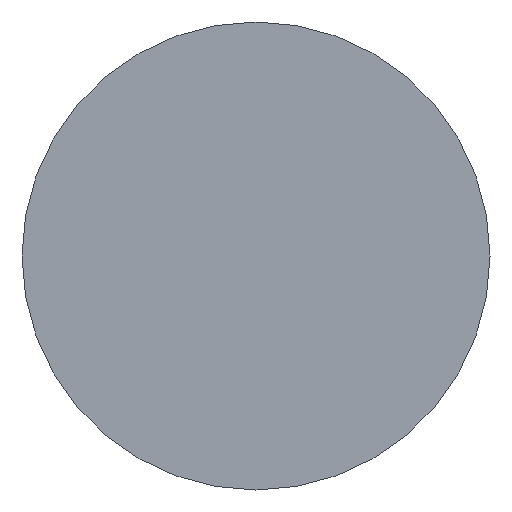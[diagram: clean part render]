
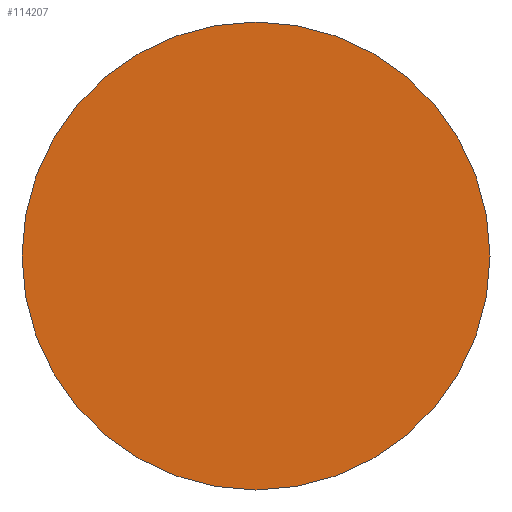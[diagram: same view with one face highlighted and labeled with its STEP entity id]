
A CAD part, left-side view. The second image highlights one B-rep face of the part: STEP entity #114207.
In plain terms, the highlighted planar face has unit normal (-1, 0, 0).
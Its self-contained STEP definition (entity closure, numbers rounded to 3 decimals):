
#951 = DIRECTION ( 'NONE',  ( 0., 0., -1. ) ) ;
#5486 = AXIS2_PLACEMENT_3D ( 'NONE', #161451, #12456, #951 ) ;
#12456 = DIRECTION ( 'NONE',  ( 1., 0., 0. ) ) ;
#26354 = EDGE_LOOP ( 'NONE', ( #76578, #157003 ) ) ;
#34103 = CARTESIAN_POINT ( 'NONE',  ( 33.5, -1.148, 35.328 ) ) ;
#36735 = VERTEX_POINT ( 'NONE', #46218 ) ;
#40858 = EDGE_CURVE ( 'NONE', #36735, #124009, #120854, .T. ) ;
#41503 = AXIS2_PLACEMENT_3D ( 'NONE', #152008, #57870, #98693 ) ;
#46218 = CARTESIAN_POINT ( 'NONE',  ( 33.5, -1.148, -34.472 ) ) ;
#57870 = DIRECTION ( 'NONE',  ( -1., 0., 0. ) ) ;
#76578 = ORIENTED_EDGE ( 'NONE', *, *, #127507, .T. ) ;
#77144 = CARTESIAN_POINT ( 'NONE',  ( 33.5, -1.148, 0.428 ) ) ;
#93981 = CIRCLE ( 'NONE', #108175, 34.9 ) ;
#98693 = DIRECTION ( 'NONE',  ( 0., 0., 1. ) ) ;
#108175 = AXIS2_PLACEMENT_3D ( 'NONE', #77144, #141172, #116292 ) ;
#114207 = ADVANCED_FACE ( 'NONE', ( #134828 ), #160579, .F. ) ;
#116292 = DIRECTION ( 'NONE',  ( 0., 0., 1. ) ) ;
#120854 = CIRCLE ( 'NONE', #41503, 34.9 ) ;
#124009 = VERTEX_POINT ( 'NONE', #34103 ) ;
#127507 = EDGE_CURVE ( 'NONE', #124009, #36735, #93981, .T. ) ;
#134828 = FACE_OUTER_BOUND ( 'NONE', #26354, .T. ) ;
#141172 = DIRECTION ( 'NONE',  ( -1., 0., 0. ) ) ;
#152008 = CARTESIAN_POINT ( 'NONE',  ( 33.5, -1.148, 0.428 ) ) ;
#157003 = ORIENTED_EDGE ( 'NONE', *, *, #40858, .T. ) ;
#160579 = PLANE ( 'NONE',  #5486 ) ;
#161451 = CARTESIAN_POINT ( 'NONE',  ( 33.5, 32.252, 0.428 ) ) ;
